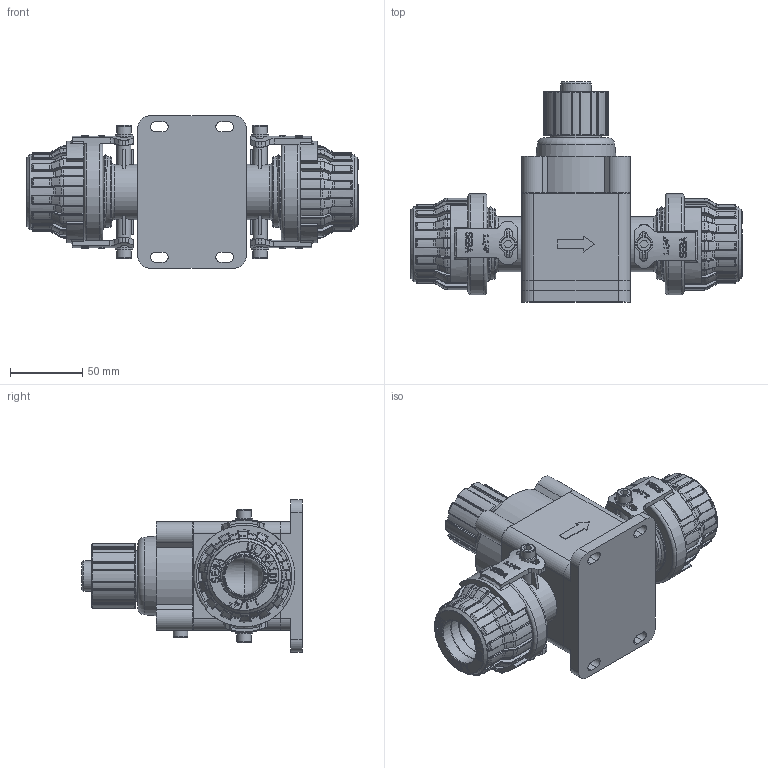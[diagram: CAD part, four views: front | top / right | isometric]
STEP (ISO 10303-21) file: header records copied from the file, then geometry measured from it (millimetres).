
FILE_DESCRIPTION(/* description */ (''),/* implementation_level */ '2;1');
FILE_NAME(/* name */ 'E:\SEBA\004 SEBA BACK UP(2018-01-11)\SEBA\001 DRAWING\INVENTOR\밸브\PIPE WELD VALVE\SM-PA-B025-C\SM-PA-MF1.1／4-C(3D).stp',/* time_stamp */ '2019-11-11T10:43:23+09:00',/* author */ ('KBS'),/* organization */ (''),/* preprocessor_version */ 'ST-DEVELOPER v15.2',/* originating_system */ 'Autodesk Inventor 2014',/* authorisation */ '');
FILE_SCHEMA (('AUTOMOTIVE_DESIGN { 1 0 10303 214 3 1 1 }'));
Products named in the file (19): Case; shaft; shaft2; Stepping; Handle; Indicator; Cover; body(1.1／4); 1.1／4  BODY 후가공; NUT(1.1／4); Sleeve Ring(1.1／4); Lock Pin(1.1／4); Nut Assy; 1.1／4  BODY 후가공_MIR; BOLT M6(10mm); MF1.1／4 BODY; base; DIAPHRAGM; SM-PA-MF1.1／4-C(3D)
Bounding box: 229 x 152 x 105 mm (x, y, z)
Volume: 676679.7 mm3; surface area: 323702.6 mm2
Topology: 24 solids, 24 shells, 4338 faces, 11383 edges, 7270 vertices
Faces by surface type: plane 1901, cylinder 1121, bspline 648, torus 430, cone 198, sphere 40
Full cylindrical faces by diameter (mm): 1.5 x1, 2 x1, 4.134 x4, 4.2 x2, 5 x1, 6 x5, 6.5 x8, 7 x4, 8.5 x1, 10 x10, 11 x8, 12 x5, 14.4 x1, 16 x4, 16.3 x1, 16.5 x1, 18 x3, 18.2 x1, 19 x2, 21 x1, 23 x8, 24 x2, 25 x1, 26 x14, 26.7 x4, 27 x2, 27.8 x2, 29.175 x2, 30 x1, 32 x1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
Entity records: 93194 total; most frequent: CARTESIAN_POINT 28185, ORIENTED_EDGE 13468, DIRECTION 13090, EDGE_CURVE 6734, AXIS2_PLACEMENT_3D 4747, VERTEX_POINT 4406, LINE 3596, VECTOR 3596
